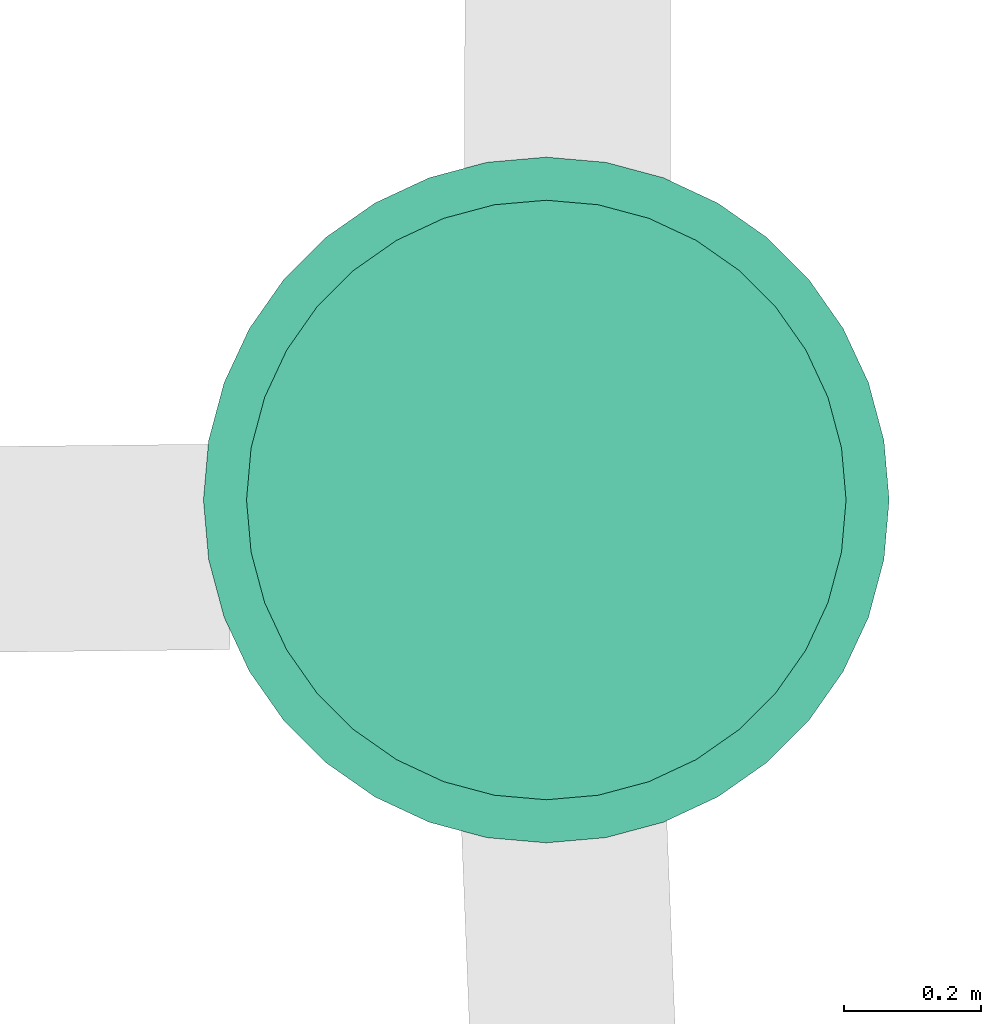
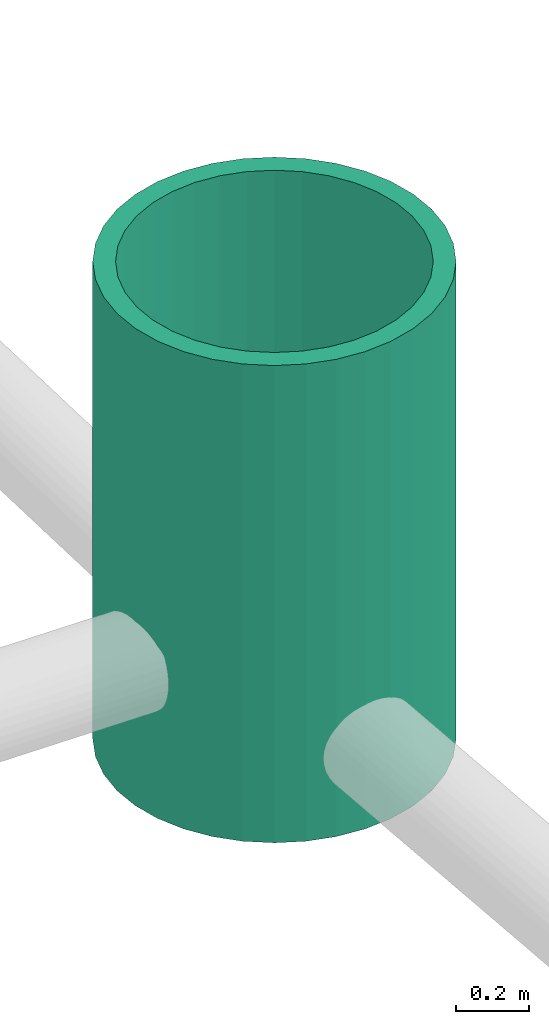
# One storey, part 3 of 3: 1 pipe segment.
"""IFC4 building model written with IfcOpenShell, lengths in metres."""

from ifc_helpers import new_model, entity, si_unit, converted_unit, derived_unit, direction, frame, origin_with_axes, place, context, subcontext, project, spatial, polygons, material, type_object, element, save


model = new_model("IFC4")

# Units and contexts
model_context = context("Model", 3, precision=1e-05, world=origin_with_axes(), true_north=direction((0.0, 1.0)))
body_context = subcontext(model_context, "Body", "Model", "MODEL_VIEW")
ifc_project = project(units=[si_unit("LENGTHUNIT", "METRE"), si_unit("AREAUNIT", "SQUARE_METRE"), si_unit("VOLUMEUNIT", "CUBIC_METRE"), converted_unit("PLANEANGLEUNIT", "DEGREE", entity("IfcPlaneAngleMeasure", 0.0174532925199), si_unit("PLANEANGLEUNIT", "RADIAN"), dimensions=[0, 0, 0, 0, 0, 0, 0]), si_unit("SOLIDANGLEUNIT", "STERADIAN"), converted_unit("TIMEUNIT", "Year", entity("IfcTimeMeasure", 31556926.0), si_unit("TIMEUNIT", "SECOND"), dimensions=[0, 0, 1, 0, 0, 0, 0]), si_unit("MASSUNIT", "GRAM", prefix="KILO"), si_unit("THERMODYNAMICTEMPERATUREUNIT", "DEGREE_CELSIUS"), si_unit("LUMINOUSINTENSITYUNIT", "LUMEN"), si_unit("ENERGYUNIT", "JOULE", prefix="MEGA"), derived_unit("THERMALCONDUCTANCEUNIT", [(si_unit("POWERUNIT", "WATT"), 1), (si_unit("LENGTHUNIT", "METRE"), -1), (si_unit("THERMODYNAMICTEMPERATUREUNIT", "KELVIN"), -1)]), derived_unit("SPECIFICHEATCAPACITYUNIT", [(si_unit("ENERGYUNIT", "JOULE"), 1), (si_unit("MASSUNIT", "GRAM", prefix="KILO"), -1), (si_unit("THERMODYNAMICTEMPERATUREUNIT", "KELVIN"), -1)]), derived_unit("MASSDENSITYUNIT", [(si_unit("MASSUNIT", "GRAM", prefix="KILO"), 1), (si_unit("VOLUMEUNIT", "CUBIC_METRE"), -1)])], contexts=[model_context])

# Site, building, storey
site_placement = place(None, origin_with_axes())
site = spatial("IfcSite", under=ifc_project, at=site_placement, Name="Site", CompositionType="ELEMENT")
building_placement = place(site_placement, origin_with_axes())
building = spatial("IfcBuilding", under=site, at=building_placement, Name="Bâtiment", CompositionType="ELEMENT")
storey_placement = place(building_placement, origin_with_axes())
storey = spatial("IfcBuildingStorey", under=building, at=storey_placement, Name="0. Etage", CompositionType="ELEMENT", Elevation=0.0)

# Pipe segment
ifc_material = material(Name="Volume - Etude")
pipe_segment_type = type_object("IfcPipeSegmentType", Name="Volume - Etude", PredefinedType="NOTDEFINED")
pipe_segment_placement = place(storey_placement, frame((6.75040913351, 4.43304900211, 35.4720049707), z_axis=(0.0, -1.0, 0.0), x_axis=(1.0, 0.0, 0.0)))
element("IfcPipeSegment", 1, at=pipe_segment_placement, inside=storey, type_object=pipe_segment_type, material=ifc_material, Name="REGARD EU3 N8", PredefinedType="NOTDEFINED", context=body_context, shape_type="Tessellation", body=[
    polygons([(-0.826759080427, 0.0, -0.321087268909), (-0.876701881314, 0.0, -0.249761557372), (-0.876701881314, 1.60165507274, -0.249761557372), (-0.826759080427, 1.60165507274, -0.321087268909), (-0.765189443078, 0.0, -0.382656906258), (-0.69386373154, 0.0, -0.432599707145), (-0.614949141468, 0.0, -0.469398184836), (-0.530843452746, 0.0, -0.491934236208), (-0.444102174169, 0.0, -0.499523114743), (-0.357360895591, 0.0, -0.491934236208), (-0.27325520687, 0.0, -0.469398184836), (-0.194340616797, 0.0, -0.432599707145), (-0.12301490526, 0.0, -0.382656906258), (-0.0614452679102, 0.0, -0.321087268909), (-0.0115024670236, 0.0, -0.249761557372), (0.0252960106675, 0.0, -0.170846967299), (0.0478320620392, 0.0, -0.0867412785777), (0.0554209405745, 0.0, 0.0), (0.0478320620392, 0.0, 0.0867412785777), (0.0252960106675, 0.0, 0.170846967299), (-0.0115024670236, 0.0, 0.249761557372), (-0.0614452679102, 0.0, 0.321087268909), (-0.12301490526, 0.0, 0.382656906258), (-0.194340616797, 0.0, 0.432599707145), (-0.27325520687, 0.0, 0.469398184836), (-0.357360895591, 0.0, 0.491934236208), (-0.444102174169, 0.0, 0.499523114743), (-0.530843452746, 0.0, 0.491934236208), (-0.614949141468, 0.0, 0.469398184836), (-0.69386373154, 0.0, 0.432599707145), (-0.765189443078, 0.0, 0.382656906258), (-0.826759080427, 0.0, 0.321087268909), (-0.876701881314, 0.0, 0.249761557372), (-0.913500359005, 0.0, 0.170846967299), (-0.936036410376, 0.0, 0.0867412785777), (-0.943625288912, 0.0, 0.0), (-0.936036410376, 0.0, -0.0867412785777), (-0.913500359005, 0.0, -0.170846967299), (-0.913500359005, 1.60165507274, -0.170846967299), (-0.936036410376, 1.60165507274, -0.0867412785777), (-0.943625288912, 1.60165507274, 0.0), (-0.936036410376, 1.60165507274, 0.0867412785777), (-0.913500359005, 1.60165507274, 0.170846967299), (-0.876701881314, 1.60165507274, 0.249761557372), (-0.826759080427, 1.60165507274, 0.321087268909), (-0.765189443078, 1.60165507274, 0.382656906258), (-0.69386373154, 1.60165507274, 0.432599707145), (-0.614949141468, 1.60165507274, 0.469398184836), (-0.530843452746, 1.60165507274, 0.491934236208), (-0.444102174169, 1.60165507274, 0.499523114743), (-0.357360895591, 1.60165507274, 0.491934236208), (-0.27325520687, 1.60165507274, 0.469398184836), (-0.194340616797, 1.60165507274, 0.432599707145), (-0.12301490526, 1.60165507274, 0.382656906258), (-0.0614452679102, 1.60165507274, 0.321087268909), (-0.0115024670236, 1.60165507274, 0.249761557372), (0.0252960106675, 1.60165507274, 0.170846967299), (0.0478320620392, 1.60165507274, 0.0867412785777), (0.0554209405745, 1.60165507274, 0.0), (0.0478320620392, 1.60165507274, -0.0867412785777), (0.0252960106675, 1.60165507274, -0.170846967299), (-0.0115024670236, 1.60165507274, -0.249761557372), (-0.0614452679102, 1.60165507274, -0.321087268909), (-0.12301490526, 1.60165507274, -0.382656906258), (-0.194340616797, 1.60165507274, -0.432599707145), (-0.27325520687, 1.60165507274, -0.469398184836), (-0.357360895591, 1.60165507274, -0.491934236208), (-0.444102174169, 1.60165507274, -0.499523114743), (-0.530843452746, 1.60165507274, -0.491934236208), (-0.614949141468, 1.60165507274, -0.469398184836), (-0.69386373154, 1.60165507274, -0.432599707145), (-0.765189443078, 1.60165507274, -0.382656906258), (-0.854515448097, 1.60165507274, -0.149378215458), (-0.822341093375, 1.60165507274, -0.218376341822), (-0.778674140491, 1.60165507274, -0.280739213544), (-0.724841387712, 1.60165507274, -0.334571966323), (-0.662478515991, 1.60165507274, -0.378238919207), (-0.593480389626, 1.60165507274, -0.410413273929), (-0.519943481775, 1.60165507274, -0.430117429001), (-0.444102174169, 1.60165507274, -0.436752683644), (-0.368260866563, 1.60165507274, -0.430117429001), (-0.294723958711, 1.60165507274, -0.410413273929), (-0.225725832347, 1.60165507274, -0.378238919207), (-0.163362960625, 1.60165507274, -0.334571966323), (-0.109530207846, 1.60165507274, -0.280739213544), (-0.065863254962, 1.60165507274, -0.218376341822), (-0.03368890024, 1.60165507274, -0.149378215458), (-0.0139847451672, 1.60165507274, -0.0758413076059), (-0.00734949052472, 1.60165507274, 0.0), (-0.0139847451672, 1.60165507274, 0.0758413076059), (-0.03368890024, 1.60165507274, 0.149378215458), (-0.065863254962, 1.60165507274, 0.218376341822), (-0.109530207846, 1.60165507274, 0.280739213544), (-0.163362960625, 1.60165507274, 0.334571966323), (-0.225725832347, 1.60165507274, 0.378238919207), (-0.294723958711, 1.60165507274, 0.410413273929), (-0.368260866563, 1.60165507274, 0.430117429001), (-0.444102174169, 1.60165507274, 0.436752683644), (-0.519943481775, 1.60165507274, 0.430117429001), (-0.593480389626, 1.60165507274, 0.410413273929), (-0.662478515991, 1.60165507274, 0.378238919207), (-0.724841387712, 1.60165507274, 0.334571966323), (-0.778674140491, 1.60165507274, 0.280739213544), (-0.822341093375, 1.60165507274, 0.218376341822), (-0.854515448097, 1.60165507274, 0.149378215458), (-0.87421960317, 1.60165507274, 0.0758413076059), (-0.880854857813, 1.60165507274, 0.0), (-0.87421960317, 1.60165507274, -0.0758413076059), (-0.854515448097, 0.0534108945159, -0.149378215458), (-0.822341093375, 0.0534108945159, -0.218376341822), (-0.778674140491, 0.0534108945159, -0.280739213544), (-0.724841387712, 0.0534108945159, -0.334571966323), (-0.662478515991, 0.0534108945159, -0.378238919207), (-0.593480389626, 0.0534108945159, -0.410413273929), (-0.519943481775, 0.0534108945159, -0.430117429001), (-0.444102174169, 0.0534108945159, -0.436752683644), (-0.368260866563, 0.0534108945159, -0.430117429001), (-0.294723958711, 0.0534108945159, -0.410413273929), (-0.225725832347, 0.0534108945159, -0.378238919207), (-0.163362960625, 0.0534108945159, -0.334571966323), (-0.109530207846, 0.0534108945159, -0.280739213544), (-0.065863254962, 0.0534108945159, -0.218376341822), (-0.03368890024, 0.0534108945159, -0.149378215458), (-0.0139847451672, 0.0534108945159, -0.0758413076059), (-0.00734949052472, 0.0534108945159, 0.0), (-0.0139847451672, 0.0534108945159, 0.0758413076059), (-0.03368890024, 0.0534108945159, 0.149378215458), (-0.065863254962, 0.0534108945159, 0.218376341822), (-0.109530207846, 0.0534108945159, 0.280739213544), (-0.163362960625, 0.0534108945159, 0.334571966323), (-0.225725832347, 0.0534108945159, 0.378238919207), (-0.294723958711, 0.0534108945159, 0.410413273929), (-0.368260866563, 0.0534108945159, 0.430117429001), (-0.444102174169, 0.0534108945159, 0.436752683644), (-0.519943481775, 0.0534108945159, 0.430117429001), (-0.593480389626, 0.0534108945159, 0.410413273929), (-0.662478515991, 0.0534108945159, 0.378238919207), (-0.724841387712, 0.0534108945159, 0.334571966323), (-0.778674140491, 0.0534108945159, 0.280739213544), (-0.822341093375, 0.0534108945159, 0.218376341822), (-0.854515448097, 0.0534108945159, 0.149378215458), (-0.87421960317, 0.0534108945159, 0.0758413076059), (-0.880854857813, 0.0534108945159, 0.0), (-0.87421960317, 0.0534108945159, -0.0758413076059)], [[[1, 2, 3, 4]], [[2, 1, 5, 6, 7, 8, 9, 10, 11, 12, 13, 14, 15, 16, 17, 18, 19, 20, 21, 22, 23, 24, 25, 26, 27, 28, 29, 30, 31, 32, 33, 34, 35, 36, 37, 38]], [[3, 2, 38, 39]], [[3, 39, 40, 41, 42, 43, 44, 45, 46, 47, 48, 49, 50, 51, 52, 53, 54, 55, 56, 57, 58, 59, 60, 61, 62, 63, 64, 65, 66, 67, 68, 69, 70, 71, 72, 4], [73, 74, 75, 76, 77, 78, 79, 80, 81, 82, 83, 84, 85, 86, 87, 88, 89, 90, 91, 92, 93, 94, 95, 96, 97, 98, 99, 100, 101, 102, 103, 104, 105, 106, 107, 108]], [[1, 4, 72, 5]], [[5, 72, 71, 6]], [[7, 6, 71, 70]], [[8, 7, 70, 69]], [[9, 8, 69, 68]], [[10, 9, 68, 67]], [[11, 10, 67, 66]], [[12, 11, 66, 65]], [[12, 65, 64, 13]], [[13, 64, 63, 14]], [[14, 63, 62, 15]], [[15, 62, 61, 16]], [[16, 61, 60, 17]], [[18, 17, 60, 59]], [[19, 18, 59, 58]], [[20, 19, 58, 57]], [[21, 20, 57, 56]], [[22, 21, 56, 55]], [[54, 23, 22, 55]], [[23, 54, 53, 24]], [[25, 24, 53, 52]], [[26, 25, 52, 51]], [[27, 26, 51, 50]], [[28, 27, 50, 49]], [[29, 28, 49, 48]], [[30, 29, 48, 47]], [[46, 31, 30, 47]], [[32, 31, 46, 45]], [[33, 32, 45, 44]], [[34, 33, 44, 43]], [[35, 34, 43, 42]], [[36, 35, 42, 41]], [[37, 36, 41, 40]], [[38, 37, 40, 39]], [[109, 110, 74, 73]], [[110, 111, 75, 74]], [[75, 111, 112, 76]], [[112, 113, 77, 76]], [[113, 114, 78, 77]], [[114, 115, 79, 78]], [[115, 116, 80, 79]], [[116, 117, 81, 80]], [[117, 118, 82, 81]], [[118, 119, 83, 82]], [[119, 120, 84, 83]], [[120, 121, 85, 84]], [[85, 121, 122, 86]], [[122, 123, 87, 86]], [[123, 124, 88, 87]], [[124, 125, 89, 88]], [[125, 126, 90, 89]], [[126, 127, 91, 90]], [[127, 128, 92, 91]], [[129, 93, 92, 128]], [[129, 130, 94, 93]], [[130, 131, 95, 94]], [[131, 132, 96, 95]], [[132, 133, 97, 96]], [[133, 134, 98, 97]], [[134, 135, 99, 98]], [[135, 136, 100, 99]], [[136, 137, 101, 100]], [[137, 138, 102, 101]], [[139, 103, 102, 138]], [[139, 140, 104, 103]], [[140, 141, 105, 104]], [[141, 142, 106, 105]], [[142, 143, 107, 106]], [[143, 144, 108, 107]], [[144, 109, 73, 108]], [[111, 110, 109, 144, 143, 142, 141, 140, 139, 138, 137, 136, 135, 134, 133, 132, 131, 130, 129, 128, 127, 126, 125, 124, 123, 122, 121, 120, 119, 118, 117, 116, 115, 114, 113, 112]]], closed=True),
])

save(model, "model.ifc")
